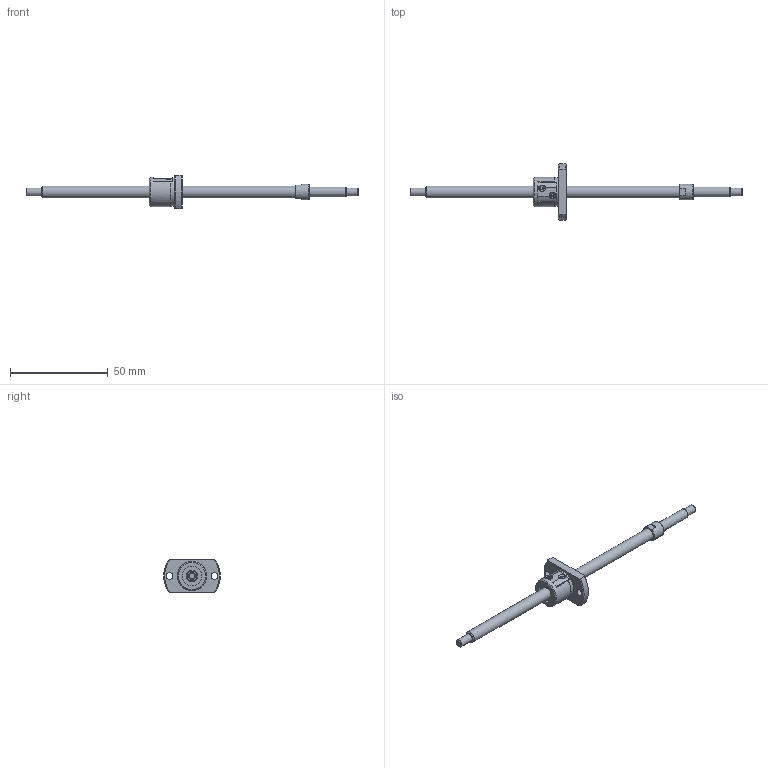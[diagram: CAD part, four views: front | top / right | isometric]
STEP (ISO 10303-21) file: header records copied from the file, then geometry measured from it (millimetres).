
FILE_DESCRIPTION(/* description */ ('STEP AP214'),/* implementation_level */ '2;1');
FILE_NAME(/* name */ 'SG0602-127R170C5C0X(55)',/* time_stamp */ '2026-07-20T20:16:30+02:00',/* author */ ('License CC BY-ND 4.0'),/* organization */ ('CADENAS'),/* preprocessor_version */ 'ST-DEVELOPER v20',/* originating_system */ 'PARTsolutions',/* authorisation */ ' ');
FILE_SCHEMA (('AUTOMOTIVE_DESIGN {1 0 10303 214 3 1 1}'));
Length unit declared in the file: millimetre
Products named in the file (3): SG0602-127R170C5C0X(55); SG0602-127R170C5C_shaft; SG0602 C5_nut
Assembly tree (2 placements, depth 2):
  SG0602-127R170C5C0X(55)
    SG0602-127R170C5C_shaft
    SG0602 C5_nut
Bounding box: 170 x 29 x 17 mm (x, y, z)
Volume: 7970.2 mm3; surface area: 5398.8 mm2
Topology: 2 solids, 2 shells, 74 faces, 179 edges, 118 vertices
Faces by surface type: plane 35, cylinder 24, cone 14, torus 1
Full cylindrical faces by diameter (mm): 3.4 x2, 4 x2, 5 x1, 6 x2, 8 x1, 10 x2, 14.6 x1, 15 x1
Entity records: 2087 total; most frequent: CARTESIAN_POINT 391, DIRECTION 352, ORIENTED_EDGE 292, AXIS2_PLACEMENT_3D 147, EDGE_CURVE 146, EDGE_LOOP 112, FACE_BOUND 112, VERTEX_POINT 108
